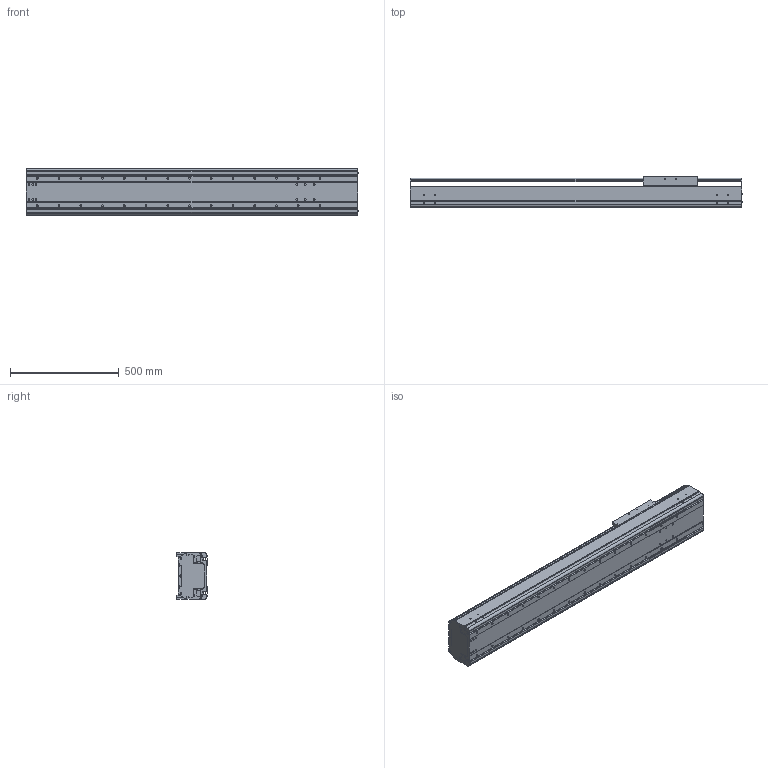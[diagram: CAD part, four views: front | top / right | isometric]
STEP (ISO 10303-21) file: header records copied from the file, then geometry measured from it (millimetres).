
FILE_DESCRIPTION((''),'2;1');
FILE_NAME('BE60J-ST-M_B-A0_IGS_PRT','2017-06-18T',(' '),(''),'PRO/ENGINEER BY PARAMETRIC TECHNOLOGY CORPORATION, 2015030','PRO/ENGINEER BY PARAMETRIC TECHNOLOGY CORPORATION, 2015030','');
FILE_SCHEMA(('CONFIG_CONTROL_DESIGN'));
Length unit declared in the file: millimetre
Products named in the file (1): BE60J-ST-M_B-A0_IGS_PRT
Bounding box: 1527.4 x 140 x 214 mm (x, y, z)
Volume: 11986557.8 mm3; surface area: 3195206.4 mm2
Topology: 2 solids, 28 shells, 1103 faces, 2922 edges, 1882 vertices
Faces by surface type: plane 525, cylinder 478, cone 52, torus 24, sphere 24
Entity records: 34527 total; most frequent: CARTESIAN_POINT 6428, DIRECTION 6016, ORIENTED_EDGE 5644, EDGE_CURVE 2870, AXIS2_PLACEMENT_3D 2152, VERTEX_POINT 1880, VECTOR 1712, LINE 1712
